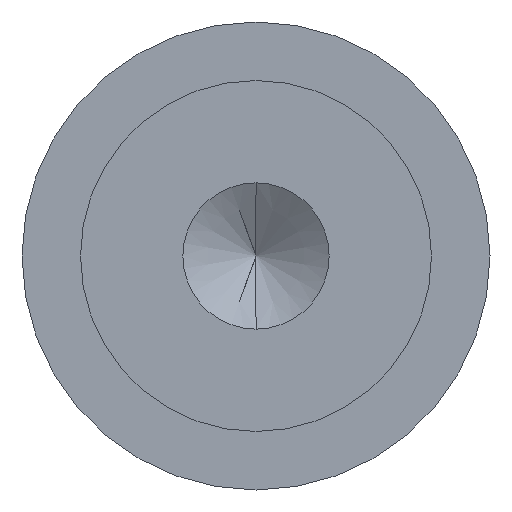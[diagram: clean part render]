
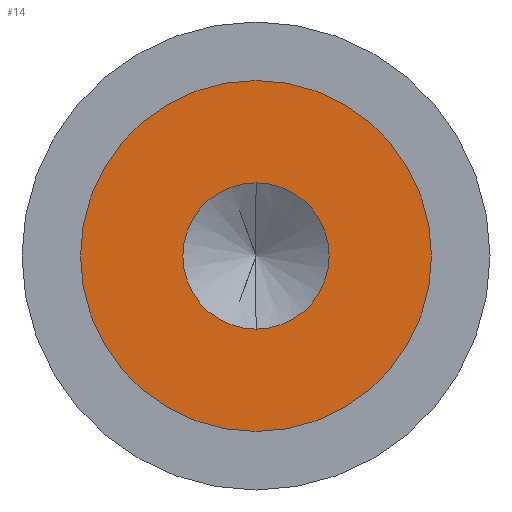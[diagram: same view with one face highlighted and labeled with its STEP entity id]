
A CAD part, front view. The second image highlights one B-rep face of the part: STEP entity #14.
In plain terms, the highlighted planar face has unit normal (0, -1, 0).
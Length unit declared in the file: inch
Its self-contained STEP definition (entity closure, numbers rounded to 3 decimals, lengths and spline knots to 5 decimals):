
#14 = ADVANCED_FACE ( 'NONE', ( #482, #483 ), #293, .F. ) ;
#36 = AXIS2_PLACEMENT_3D ( 'NONE', #302, #319, #294 ) ;
#38 = AXIS2_PLACEMENT_3D ( 'NONE', #98, #101, #93 ) ;
#45 = AXIS2_PLACEMENT_3D ( 'NONE', #113, #114, #138 ) ;
#63 = AXIS2_PLACEMENT_3D ( 'NONE', #200, #204, #198 ) ;
#64 = AXIS2_PLACEMENT_3D ( 'NONE', #218, #199, #211 ) ;
#76 = EDGE_CURVE ( 'NONE', #254, #272, #451, .T. ) ;
#80 = EDGE_CURVE ( 'NONE', #272, #254, #462, .T. ) ;
#93 = DIRECTION ( 'NONE',  ( 0., 0., -1. ) ) ;
#98 = CARTESIAN_POINT ( 'NONE',  ( 0., -1.25, 0. ) ) ;
#101 = DIRECTION ( 'NONE',  ( 0., -1., 0. ) ) ;
#113 = CARTESIAN_POINT ( 'NONE',  ( 0., -1.25, 0. ) ) ;
#114 = DIRECTION ( 'NONE',  ( 0., -1., 0. ) ) ;
#129 = CARTESIAN_POINT ( 'NONE',  ( 0., -1.25, -0.375 ) ) ;
#138 = DIRECTION ( 'NONE',  ( 0., 0., -1. ) ) ;
#140 = CARTESIAN_POINT ( 'NONE',  ( 0., -1.25, 0.375 ) ) ;
#142 = CARTESIAN_POINT ( 'NONE',  ( 0., -1.25, -0.15625 ) ) ;
#149 = CARTESIAN_POINT ( 'NONE',  ( 0., -1.25, 0.15625 ) ) ;
#198 = DIRECTION ( 'NONE',  ( 0., 0., 1. ) ) ;
#199 = DIRECTION ( 'NONE',  ( 0., 1., 0. ) ) ;
#200 = CARTESIAN_POINT ( 'NONE',  ( 0., -1.25, 0. ) ) ;
#204 = DIRECTION ( 'NONE',  ( 0., 1., 0. ) ) ;
#211 = DIRECTION ( 'NONE',  ( 0., 0., 1. ) ) ;
#218 = CARTESIAN_POINT ( 'NONE',  ( 0., -1.25, 0. ) ) ;
#243 = VERTEX_POINT ( 'NONE', #140 ) ;
#246 = VERTEX_POINT ( 'NONE', #129 ) ;
#254 = VERTEX_POINT ( 'NONE', #142 ) ;
#272 = VERTEX_POINT ( 'NONE', #149 ) ;
#293 = PLANE ( 'NONE',  #36 ) ;
#294 = DIRECTION ( 'NONE',  ( 0., 0., 1. ) ) ;
#302 = CARTESIAN_POINT ( 'NONE',  ( -1.10557, -1.25, 0. ) ) ;
#319 = DIRECTION ( 'NONE',  ( 0., 1., 0. ) ) ;
#351 = ORIENTED_EDGE ( 'NONE', *, *, #557, .F. ) ;
#355 = ORIENTED_EDGE ( 'NONE', *, *, #76, .F. ) ;
#368 = ORIENTED_EDGE ( 'NONE', *, *, #558, .F. ) ;
#369 = ORIENTED_EDGE ( 'NONE', *, *, #80, .F. ) ;
#408 = EDGE_LOOP ( 'NONE', ( #355, #369 ) ) ;
#431 = EDGE_LOOP ( 'NONE', ( #368, #351 ) ) ;
#451 = CIRCLE ( 'NONE', #38, 0.15625 ) ;
#462 = CIRCLE ( 'NONE', #45, 0.15625 ) ;
#482 = FACE_BOUND ( 'NONE', #408, .T. ) ;
#483 = FACE_OUTER_BOUND ( 'NONE', #431, .T. ) ;
#521 = CIRCLE ( 'NONE', #64, 0.375 ) ;
#535 = CIRCLE ( 'NONE', #63, 0.375 ) ;
#557 = EDGE_CURVE ( 'NONE', #243, #246, #535, .T. ) ;
#558 = EDGE_CURVE ( 'NONE', #246, #243, #521, .T. ) ;
